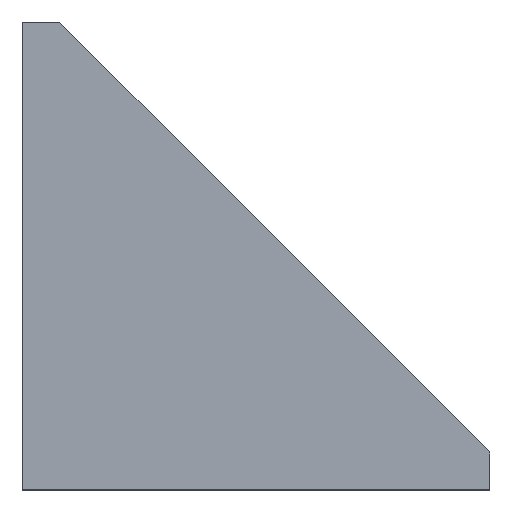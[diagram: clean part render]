
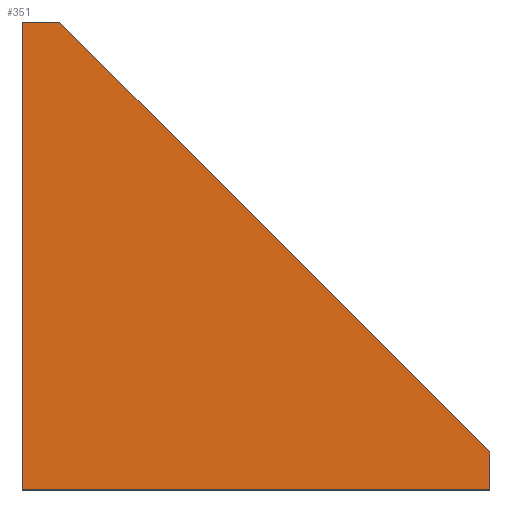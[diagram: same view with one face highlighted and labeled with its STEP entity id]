
A CAD part, top view. The second image highlights one B-rep face of the part: STEP entity #351.
In plain terms, the highlighted planar face has unit normal (0, 0, 1).
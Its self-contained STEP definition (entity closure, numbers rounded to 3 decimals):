
#45 = VERTEX_POINT ( 'NONE', #222 ) ;
#64 = VERTEX_POINT ( 'NONE', #630 ) ;
#68 = VERTEX_POINT ( 'NONE', #535 ) ;
#69 = EDGE_CURVE ( 'NONE', #64, #68, #520, .T. ) ;
#222 = CARTESIAN_POINT ( 'NONE',  ( 87., 0., 21.5 ) ) ;
#277 = EDGE_LOOP ( 'NONE', ( #353, #390, #352, #357, #354 ) ) ;
#322 = EDGE_CURVE ( 'NONE', #45, #327, #729, .T. ) ;
#327 = VERTEX_POINT ( 'NONE', #712 ) ;
#329 = VERTEX_POINT ( 'NONE', #710 ) ;
#351 = ADVANCED_FACE ( 'NONE', ( #787 ), #814, .T. ) ;
#352 = ORIENTED_EDGE ( 'NONE', *, *, #322, .T. ) ;
#353 = ORIENTED_EDGE ( 'NONE', *, *, #69, .T. ) ;
#354 = ORIENTED_EDGE ( 'NONE', *, *, #389, .T. ) ;
#355 = EDGE_CURVE ( 'NONE', #329, #327, #780, .T. ) ;
#357 = ORIENTED_EDGE ( 'NONE', *, *, #355, .F. ) ;
#389 = EDGE_CURVE ( 'NONE', #329, #64, #770, .T. ) ;
#390 = ORIENTED_EDGE ( 'NONE', *, *, #393, .T. ) ;
#393 = EDGE_CURVE ( 'NONE', #68, #45, #708, .T. ) ;
#517 = DIRECTION ( 'NONE',  ( 0., -1., 0. ) ) ;
#518 = VECTOR ( 'NONE', #517, 1000. ) ;
#519 = CARTESIAN_POINT ( 'NONE',  ( 0., 87., 21.5 ) ) ;
#520 = LINE ( 'NONE', #519, #518 ) ;
#535 = CARTESIAN_POINT ( 'NONE',  ( 0., 0., 21.5 ) ) ;
#630 = CARTESIAN_POINT ( 'NONE',  ( 0., 87., 21.5 ) ) ;
#702 = VECTOR ( 'NONE', #800, 1000. ) ;
#703 = CARTESIAN_POINT ( 'NONE',  ( 0., 0., 21.5 ) ) ;
#705 = DIRECTION ( 'NONE',  ( 1., 0., 0. ) ) ;
#706 = VECTOR ( 'NONE', #705, 1000. ) ;
#708 = LINE ( 'NONE', #703, #706 ) ;
#710 = CARTESIAN_POINT ( 'NONE',  ( 7., 87., 21.5 ) ) ;
#712 = CARTESIAN_POINT ( 'NONE',  ( 87., 7., 21.5 ) ) ;
#722 = CARTESIAN_POINT ( 'NONE',  ( 0., 0., 21.5 ) ) ;
#723 = AXIS2_PLACEMENT_3D ( 'NONE', #722, #753, #752 ) ;
#729 = LINE ( 'NONE', #798, #822 ) ;
#744 = CARTESIAN_POINT ( 'NONE',  ( 7., 87., 21.5 ) ) ;
#747 = DIRECTION ( 'NONE',  ( 0., 1., 0. ) ) ;
#752 = DIRECTION ( 'NONE',  ( 1., 0., 0. ) ) ;
#753 = DIRECTION ( 'NONE',  ( 0., 0., 1. ) ) ;
#769 = CARTESIAN_POINT ( 'NONE',  ( 7., 87., 21.5 ) ) ;
#770 = LINE ( 'NONE', #769, #702 ) ;
#778 = DIRECTION ( 'NONE',  ( 0.707, -0.707, 0. ) ) ;
#779 = VECTOR ( 'NONE', #778, 1000. ) ;
#780 = LINE ( 'NONE', #744, #779 ) ;
#787 = FACE_OUTER_BOUND ( 'NONE', #277, .T. ) ;
#798 = CARTESIAN_POINT ( 'NONE',  ( 87., 0., 21.5 ) ) ;
#800 = DIRECTION ( 'NONE',  ( -1., 0., 0. ) ) ;
#814 = PLANE ( 'NONE',  #723 ) ;
#822 = VECTOR ( 'NONE', #747, 1000. ) ;
